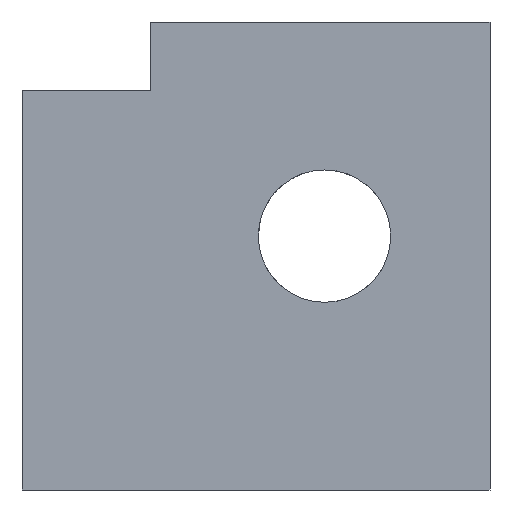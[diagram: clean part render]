
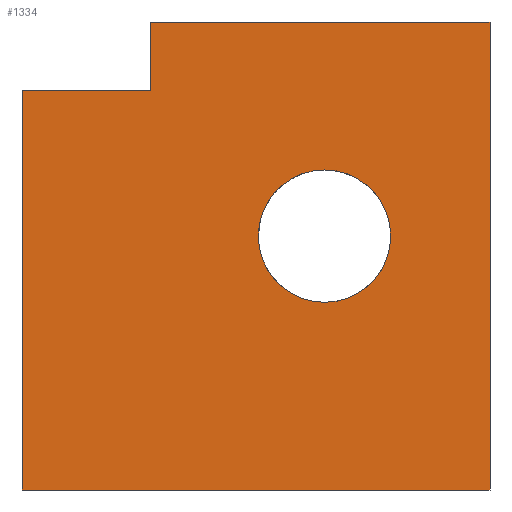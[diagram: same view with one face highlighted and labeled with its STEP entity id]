
A CAD part, front view. The second image highlights one B-rep face of the part: STEP entity #1334.
In plain terms, the highlighted planar face has unit normal (0, -1, 0).
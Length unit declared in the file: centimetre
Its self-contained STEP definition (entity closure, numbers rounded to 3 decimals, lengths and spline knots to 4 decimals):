
#7 = DIRECTION ( 'NONE',  ( 1., 0., 0. ) ) ;
#18 = DIRECTION ( 'NONE',  ( 0., 0., 1. ) ) ;
#31 = CARTESIAN_POINT ( 'NONE',  ( 0., 0., 0. ) ) ;
#42 = PLANE ( 'NONE',  #786 ) ;
#54 = EDGE_CURVE ( 'NONE', #862, #1322, #252, .T. ) ;
#85 = CIRCLE ( 'NONE', #828, 141.3908 ) ;
#110 = ORIENTED_EDGE ( 'NONE', *, *, #1277, .F. ) ;
#130 = VECTOR ( 'NONE', #7, 100. ) ;
#136 = DIRECTION ( 'NONE',  ( 0., 1., 0. ) ) ;
#139 = CARTESIAN_POINT ( 'NONE',  ( 0., 0., 1000. ) ) ;
#229 = VERTEX_POINT ( 'NONE', #822 ) ;
#252 = LINE ( 'NONE', #356, #895 ) ;
#300 = DIRECTION ( 'NONE',  ( 0., -1., 0. ) ) ;
#331 = ORIENTED_EDGE ( 'NONE', *, *, #1454, .T. ) ;
#333 = EDGE_CURVE ( 'NONE', #838, #882, #695, .T. ) ;
#352 = CARTESIAN_POINT ( 'NONE',  ( 0., 0., 1000. ) ) ;
#356 = CARTESIAN_POINT ( 'NONE',  ( 0., 0., 852.9786 ) ) ;
#390 = DIRECTION ( 'NONE',  ( 0., 0., -1. ) ) ;
#400 = ORIENTED_EDGE ( 'NONE', *, *, #912, .F. ) ;
#405 = VERTEX_POINT ( 'NONE', #549 ) ;
#435 = EDGE_LOOP ( 'NONE', ( #400, #110, #1003, #331, #1337, #1367 ) ) ;
#451 = CARTESIAN_POINT ( 'NONE',  ( 646.4274, 0., 683.809 ) ) ;
#533 = VECTOR ( 'NONE', #1018, 100. ) ;
#545 = EDGE_CURVE ( 'NONE', #405, #229, #1152, .T. ) ;
#549 = CARTESIAN_POINT ( 'NONE',  ( 1000., 0., 1000. ) ) ;
#591 = DIRECTION ( 'NONE',  ( 0., 0., 1. ) ) ;
#600 = FACE_BOUND ( 'NONE', #1019, .T. ) ;
#615 = CARTESIAN_POINT ( 'NONE',  ( 1000., 0., 1000. ) ) ;
#664 = VERTEX_POINT ( 'NONE', #1339 ) ;
#695 = CIRCLE ( 'NONE', #1249, 141.3908 ) ;
#702 = CARTESIAN_POINT ( 'NONE',  ( 274.8667, 0., 852.9786 ) ) ;
#786 = AXIS2_PLACEMENT_3D ( 'NONE', #1377, #136, #18 ) ;
#798 = CARTESIAN_POINT ( 'NONE',  ( 646.4274, 0., 401.0274 ) ) ;
#808 = VECTOR ( 'NONE', #891, 100. ) ;
#817 = CARTESIAN_POINT ( 'NONE',  ( 274.8667, 0., 852.9786 ) ) ;
#822 = CARTESIAN_POINT ( 'NONE',  ( 1000., 0., 0. ) ) ;
#828 = AXIS2_PLACEMENT_3D ( 'NONE', #957, #300, #1065 ) ;
#838 = VERTEX_POINT ( 'NONE', #798 ) ;
#862 = VERTEX_POINT ( 'NONE', #1237 ) ;
#882 = VERTEX_POINT ( 'NONE', #451 ) ;
#891 = DIRECTION ( 'NONE',  ( 0., 0., -1. ) ) ;
#895 = VECTOR ( 'NONE', #1020, 100. ) ;
#902 = LINE ( 'NONE', #352, #533 ) ;
#903 = EDGE_CURVE ( 'NONE', #1323, #229, #1006, .T. ) ;
#912 = EDGE_CURVE ( 'NONE', #664, #405, #902, .T. ) ;
#944 = EDGE_CURVE ( 'NONE', #882, #838, #85, .T. ) ;
#957 = CARTESIAN_POINT ( 'NONE',  ( 646.4274, 0., 542.4182 ) ) ;
#962 = CARTESIAN_POINT ( 'NONE',  ( 646.4274, 0., 542.4182 ) ) ;
#976 = ORIENTED_EDGE ( 'NONE', *, *, #944, .F. ) ;
#1003 = ORIENTED_EDGE ( 'NONE', *, *, #54, .F. ) ;
#1006 = LINE ( 'NONE', #1013, #130 ) ;
#1013 = CARTESIAN_POINT ( 'NONE',  ( 0., 0., 0. ) ) ;
#1018 = DIRECTION ( 'NONE',  ( 1., 0., 0. ) ) ;
#1019 = EDGE_LOOP ( 'NONE', ( #1409, #976 ) ) ;
#1020 = DIRECTION ( 'NONE',  ( 1., 0., 0. ) ) ;
#1038 = FACE_OUTER_BOUND ( 'NONE', #435, .T. ) ;
#1065 = DIRECTION ( 'NONE',  ( 0., 0., -1. ) ) ;
#1152 = LINE ( 'NONE', #615, #1392 ) ;
#1237 = CARTESIAN_POINT ( 'NONE',  ( 0., 0., 852.9786 ) ) ;
#1249 = AXIS2_PLACEMENT_3D ( 'NONE', #962, #1410, #390 ) ;
#1277 = EDGE_CURVE ( 'NONE', #1322, #664, #1379, .T. ) ;
#1322 = VERTEX_POINT ( 'NONE', #817 ) ;
#1323 = VERTEX_POINT ( 'NONE', #31 ) ;
#1334 = ADVANCED_FACE ( 'NONE', ( #600, #1038 ), #42, .F. ) ;
#1337 = ORIENTED_EDGE ( 'NONE', *, *, #903, .T. ) ;
#1339 = CARTESIAN_POINT ( 'NONE',  ( 274.8667, 0., 1000. ) ) ;
#1365 = VECTOR ( 'NONE', #591, 100. ) ;
#1367 = ORIENTED_EDGE ( 'NONE', *, *, #545, .F. ) ;
#1377 = CARTESIAN_POINT ( 'NONE',  ( 0., 0., 1000. ) ) ;
#1379 = LINE ( 'NONE', #702, #1365 ) ;
#1392 = VECTOR ( 'NONE', #1406, 100. ) ;
#1406 = DIRECTION ( 'NONE',  ( 0., 0., -1. ) ) ;
#1409 = ORIENTED_EDGE ( 'NONE', *, *, #333, .F. ) ;
#1410 = DIRECTION ( 'NONE',  ( 0., -1., 0. ) ) ;
#1450 = LINE ( 'NONE', #139, #808 ) ;
#1454 = EDGE_CURVE ( 'NONE', #862, #1323, #1450, .T. ) ;
